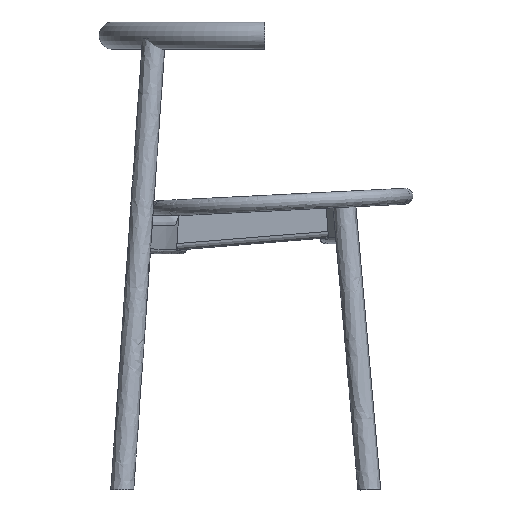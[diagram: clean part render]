
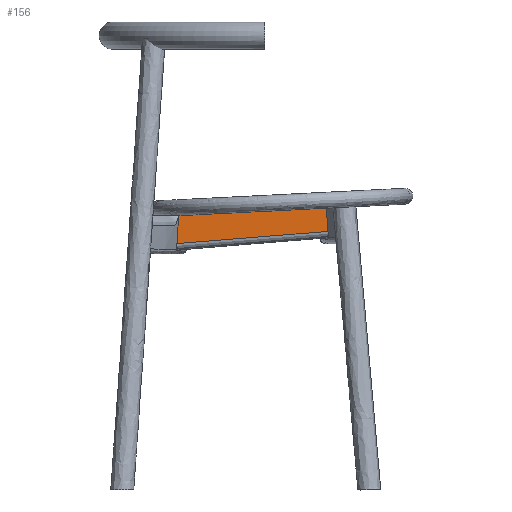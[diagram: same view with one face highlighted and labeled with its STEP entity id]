
A CAD part, left-side view. The second image highlights one B-rep face of the part: STEP entity #156.
In plain terms, the highlighted free-form (B-spline) face has degree [1, 3] with [2, 17] control points.
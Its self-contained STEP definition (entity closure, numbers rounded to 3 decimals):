
#156=ADVANCED_FACE('',(#203),#1816,.T.);
#203=FACE_OUTER_BOUND('',#250,.T.);
#250=EDGE_LOOP('',(#378,#379,#380,#381));
#378=ORIENTED_EDGE('',*,*,#1476,.T.);
#379=ORIENTED_EDGE('',*,*,#1477,.T.);
#380=ORIENTED_EDGE('',*,*,#1478,.T.);
#381=ORIENTED_EDGE('',*,*,#1479,.T.);
#638=B_SPLINE_CURVE_WITH_KNOTS('',3,(#8351,#8352,#8353,#8354),
 .UNSPECIFIED.,.F.,.F.,(4,4),(-232.471,0.),
 .UNSPECIFIED.);
#639=B_SPLINE_CURVE_WITH_KNOTS('',3,(#8355,#8356,#8357,#8358),
 .UNSPECIFIED.,.F.,.F.,(4,4),(-232.471,0.),
 .UNSPECIFIED.);
#640=B_SPLINE_CURVE_WITH_KNOTS('',3,(#8359,#8360,#8361,#8362,#8363,#8364,
#8365,#8366,#8367,#8368,#8369,#8370),.UNSPECIFIED.,.F.,.F.,(4,2,2,2,2,4),
(-44.205,-33.332,-30.584,-27.848,
-22.37,-0.439),.UNSPECIFIED.);
#641=B_SPLINE_CURVE_WITH_KNOTS('',3,(#8371,#8372,#8373,#8374,#8375,#8376,
#8377,#8378,#8379,#8380,#8381,#8382,#8383,#8384,#8385,#8386),
 .UNSPECIFIED.,.F.,.F.,(4,3,3,3,3,4),(-44.205,-44.204,
-44.203,-30.313,-17.11,-0.439),
 .UNSPECIFIED.);
#642=B_SPLINE_CURVE_WITH_KNOTS('',1,(#8398,#8399),.UNSPECIFIED.,.F.,.F.,
(2,2),(-236.089,-4.66),.UNSPECIFIED.);
#643=B_SPLINE_CURVE_WITH_KNOTS('',3,(#8400,#8401,#8402,#8403,#8404,#8405,
#8406,#8407,#8408,#8409),.UNSPECIFIED.,.F.,.F.,(4,2,2,2,4),(-37.122,
-18.827,-9.679,-5.105,-0.531),
 .UNSPECIFIED.);
#644=B_SPLINE_CURVE_WITH_KNOTS('',3,(#8410,#8411,#8412,#8413,#8414,#8415,
#8416),.UNSPECIFIED.,.F.,.F.,(4,3,4),(-37.122,-5.105,
-0.531),.UNSPECIFIED.);
#906=PCURVE('',#1816,#1110);
#907=PCURVE('',#1816,#1111);
#908=PCURVE('',#1816,#1112);
#909=PCURVE('',#1816,#1113);
#1110=DEFINITIONAL_REPRESENTATION('',(#639),#16113);
#1111=DEFINITIONAL_REPRESENTATION('',(#641),#16113);
#1112=DEFINITIONAL_REPRESENTATION('',(#642),#16113);
#1113=DEFINITIONAL_REPRESENTATION('',(#644),#16113);
#1295=SURFACE_CURVE('',#638,(#906),.PCURVE_S1.);
#1296=SURFACE_CURVE('',#640,(#907),.PCURVE_S1.);
#1297=SURFACE_CURVE('',#1602,(#908),.PCURVE_S1.);
#1298=SURFACE_CURVE('',#643,(#909),.PCURVE_S1.);
#1476=EDGE_CURVE('',#1712,#1711,#1295,.T.);
#1477=EDGE_CURVE('',#1711,#1710,#1296,.T.);
#1478=EDGE_CURVE('',#1710,#1713,#1297,.T.);
#1479=EDGE_CURVE('',#1713,#1712,#1298,.T.);
#1602=(
BOUNDED_CURVE()
B_SPLINE_CURVE(3,(#8387,#8388,#8389,#8390,#8391,#8392,#8393,#8394,#8395,
#8396,#8397),.UNSPECIFIED.,.F.,.F.)
B_SPLINE_CURVE_WITH_KNOTS((4,3,1,3,4),(-236.089,-235.218,
-126.029,-7.171,-4.66),.UNSPECIFIED.)
CURVE()
GEOMETRIC_REPRESENTATION_ITEM()
RATIONAL_B_SPLINE_CURVE((1.,1.,1.,1.,1.,1.,1.,1.,1.,1.,1.))
REPRESENTATION_ITEM('')
);
#1710=VERTEX_POINT('',#8347);
#1711=VERTEX_POINT('',#8348);
#1712=VERTEX_POINT('',#8349);
#1713=VERTEX_POINT('',#8350);
#1816=(
BOUNDED_SURFACE()
B_SPLINE_SURFACE(1,3,((#8313,#8314,#8315,#8316,#8317,#8318,#8319,#8320,
#8321,#8322,#8323,#8324,#8325,#8326,#8327,#8328,#8329),(#8330,#8331,#8332,
#8333,#8334,#8335,#8336,#8337,#8338,#8339,#8340,#8341,#8342,#8343,#8344,
#8345,#8346)),.UNSPECIFIED.,.F.,.F.,.F.)
B_SPLINE_SURFACE_WITH_KNOTS((2,2),(4,3,3,3,1,3,4),(0.,44.253),
(-0.142,-0.035,0.,2.624,124.995,
237.412,238.308),.UNSPECIFIED.)
GEOMETRIC_REPRESENTATION_ITEM()
RATIONAL_B_SPLINE_SURFACE(((1.,1.,1.,1.,1.,1.,1.,1.,1.,1.,1.,1.,1.,1.,1.,
1.,1.),(1.,1.,1.,1.,1.,1.,1.,1.,1.,1.,1.,1.,1.,1.,1.,1.,1.)))
REPRESENTATION_ITEM('')
SURFACE()
);
#8313=CARTESIAN_POINT('',(80.395,78.74,406.453));
#8314=CARTESIAN_POINT('',(80.395,78.776,406.451));
#8315=CARTESIAN_POINT('',(80.395,78.811,406.448));
#8316=CARTESIAN_POINT('',(80.395,78.847,406.445));
#8317=CARTESIAN_POINT('',(80.395,78.858,406.444));
#8318=CARTESIAN_POINT('',(80.395,78.87,406.443));
#8319=CARTESIAN_POINT('',(80.395,78.881,406.442));
#8320=CARTESIAN_POINT('',(80.395,79.753,406.372));
#8321=CARTESIAN_POINT('',(80.395,80.625,406.301));
#8322=CARTESIAN_POINT('',(80.395,81.496,406.231));
#8323=CARTESIAN_POINT('',(80.395,122.154,402.948));
#8324=CARTESIAN_POINT('',(80.395,200.162,396.63));
#8325=CARTESIAN_POINT('',(80.395,278.169,390.316));
#8326=CARTESIAN_POINT('',(80.395,315.52,387.303));
#8327=CARTESIAN_POINT('',(80.395,315.818,387.279));
#8328=CARTESIAN_POINT('',(80.395,316.116,387.255));
#8329=CARTESIAN_POINT('',(80.395,316.414,387.231));
#8330=CARTESIAN_POINT('',(80.364,81.68,445.468));
#8331=CARTESIAN_POINT('',(80.364,81.714,445.466));
#8332=CARTESIAN_POINT('',(80.364,81.749,445.464));
#8333=CARTESIAN_POINT('',(80.364,81.784,445.462));
#8334=CARTESIAN_POINT('',(80.364,81.796,445.461));
#8335=CARTESIAN_POINT('',(80.364,81.807,445.46));
#8336=CARTESIAN_POINT('',(80.364,81.818,445.459));
#8337=CARTESIAN_POINT('',(80.364,82.673,445.408));
#8338=CARTESIAN_POINT('',(80.364,83.527,445.357));
#8339=CARTESIAN_POINT('',(80.364,84.381,445.305));
#8340=CARTESIAN_POINT('',(80.364,124.234,442.911));
#8341=CARTESIAN_POINT('',(80.364,200.699,438.316));
#8342=CARTESIAN_POINT('',(80.364,277.163,433.721));
#8343=CARTESIAN_POINT('',(80.364,313.774,431.521));
#8344=CARTESIAN_POINT('',(80.364,314.066,431.503));
#8345=CARTESIAN_POINT('',(80.364,314.358,431.486));
#8346=CARTESIAN_POINT('',(80.364,314.65,431.468));
#8347=CARTESIAN_POINT('',(80.395,316.414,387.231));
#8348=CARTESIAN_POINT('',(80.364,313.795,431.));
#8349=CARTESIAN_POINT('',(80.366,81.63,442.929));
#8350=CARTESIAN_POINT('',(80.395,78.92,406.439));
#8351=CARTESIAN_POINT('',(80.366,81.63,442.929));
#8352=CARTESIAN_POINT('',(80.365,159.018,438.953));
#8353=CARTESIAN_POINT('',(80.365,236.407,434.976));
#8354=CARTESIAN_POINT('',(80.364,313.795,431.));
#8355=CARTESIAN_POINT('',(41.383,0.002));
#8356=CARTESIAN_POINT('',(42.264,79.138));
#8357=CARTESIAN_POINT('',(43.037,158.274));
#8358=CARTESIAN_POINT('',(43.731,237.412));
#8359=CARTESIAN_POINT('',(80.364,313.795,431.));
#8360=CARTESIAN_POINT('',(80.367,314.015,427.376));
#8361=CARTESIAN_POINT('',(80.369,314.233,423.751));
#8362=CARTESIAN_POINT('',(80.373,314.506,419.211));
#8363=CARTESIAN_POINT('',(80.373,314.561,418.295));
#8364=CARTESIAN_POINT('',(80.375,314.671,416.466));
#8365=CARTESIAN_POINT('',(80.375,314.725,415.554));
#8366=CARTESIAN_POINT('',(80.377,314.889,412.816));
#8367=CARTESIAN_POINT('',(80.378,314.998,410.99));
#8368=CARTESIAN_POINT('',(80.385,315.544,401.853));
#8369=CARTESIAN_POINT('',(80.39,315.98,394.542));
#8370=CARTESIAN_POINT('',(80.395,316.414,387.231));
#8371=CARTESIAN_POINT('',(43.731,237.412));
#8372=CARTESIAN_POINT('',(43.731,237.412));
#8373=CARTESIAN_POINT('',(43.731,237.412));
#8374=CARTESIAN_POINT('',(43.731,237.412));
#8375=CARTESIAN_POINT('',(43.73,237.412));
#8376=CARTESIAN_POINT('',(43.73,237.412));
#8377=CARTESIAN_POINT('',(43.729,237.412));
#8378=CARTESIAN_POINT('',(39.122,237.512));
#8379=CARTESIAN_POINT('',(34.491,237.61));
#8380=CARTESIAN_POINT('',(29.848,237.706));
#8381=CARTESIAN_POINT('',(25.46,237.797));
#8382=CARTESIAN_POINT('',(21.061,237.887));
#8383=CARTESIAN_POINT('',(16.654,237.976));
#8384=CARTESIAN_POINT('',(11.114,238.088));
#8385=CARTESIAN_POINT('',(5.562,238.199));
#8386=CARTESIAN_POINT('',(0.,238.308));
#8387=CARTESIAN_POINT('',(80.395,316.414,387.231));
#8388=CARTESIAN_POINT('',(80.395,316.116,387.255));
#8389=CARTESIAN_POINT('',(80.395,315.818,387.279));
#8390=CARTESIAN_POINT('',(80.395,315.52,387.303));
#8391=CARTESIAN_POINT('',(80.395,278.169,390.316));
#8392=CARTESIAN_POINT('',(80.395,200.162,396.63));
#8393=CARTESIAN_POINT('',(80.395,122.154,402.948));
#8394=CARTESIAN_POINT('',(80.395,81.496,406.231));
#8395=CARTESIAN_POINT('',(80.395,80.637,406.3));
#8396=CARTESIAN_POINT('',(80.395,79.779,406.37));
#8397=CARTESIAN_POINT('',(80.395,78.92,406.439));
#8398=CARTESIAN_POINT('',(0.,238.308));
#8399=CARTESIAN_POINT('',(0.,0.038));
#8400=CARTESIAN_POINT('',(80.395,78.92,406.439));
#8401=CARTESIAN_POINT('',(80.39,79.373,412.522));
#8402=CARTESIAN_POINT('',(80.385,79.826,418.604));
#8403=CARTESIAN_POINT('',(80.378,80.504,427.726));
#8404=CARTESIAN_POINT('',(80.376,80.729,430.767));
#8405=CARTESIAN_POINT('',(80.372,81.067,435.328));
#8406=CARTESIAN_POINT('',(80.371,81.18,436.848));
#8407=CARTESIAN_POINT('',(80.368,81.405,439.889));
#8408=CARTESIAN_POINT('',(80.366,81.517,441.409));
#8409=CARTESIAN_POINT('',(80.366,81.63,442.929));
#8410=CARTESIAN_POINT('',(0.,0.038));
#8411=CARTESIAN_POINT('',(12.07,0.032));
#8412=CARTESIAN_POINT('',(24.141,0.022));
#8413=CARTESIAN_POINT('',(36.211,0.008));
#8414=CARTESIAN_POINT('',(37.935,0.006));
#8415=CARTESIAN_POINT('',(39.659,0.004));
#8416=CARTESIAN_POINT('',(41.383,0.002));
#16113=(
GEOMETRIC_REPRESENTATION_CONTEXT(2)
PARAMETRIC_REPRESENTATION_CONTEXT()
REPRESENTATION_CONTEXT('pspace','')
);
